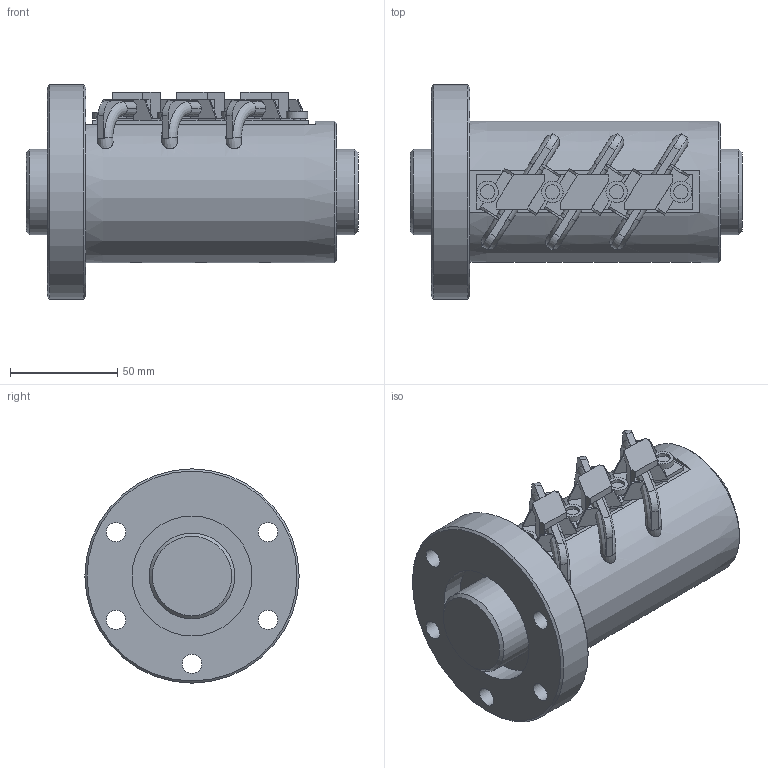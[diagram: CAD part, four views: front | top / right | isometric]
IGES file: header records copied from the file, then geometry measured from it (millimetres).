
Start section: Data from Parasolid IGES Translator 26.0.171, Copyright(c) 2006 Siemens PLM Software. All Rights Reserved.
Global section: file name: HBN4010-7.5RRG2+155LC0(0G200)_rev.igs; native system: By Siemens PLM Incorporated; preprocessor: XPlus GENERIC/IGES 26.0.171; author: Noname; organization: Noname; date: 20240704.081724; units: millimetre
Bounding box: 155 x 100 x 100 mm (x, y, z)
Surface area: 96927.4 mm2 (no closed solid volume)
Topology: 0 solids, 0 shells, 257 faces, 1497 edges, 1447 vertices
Faces by surface type: extrusion 193, revolution 64
